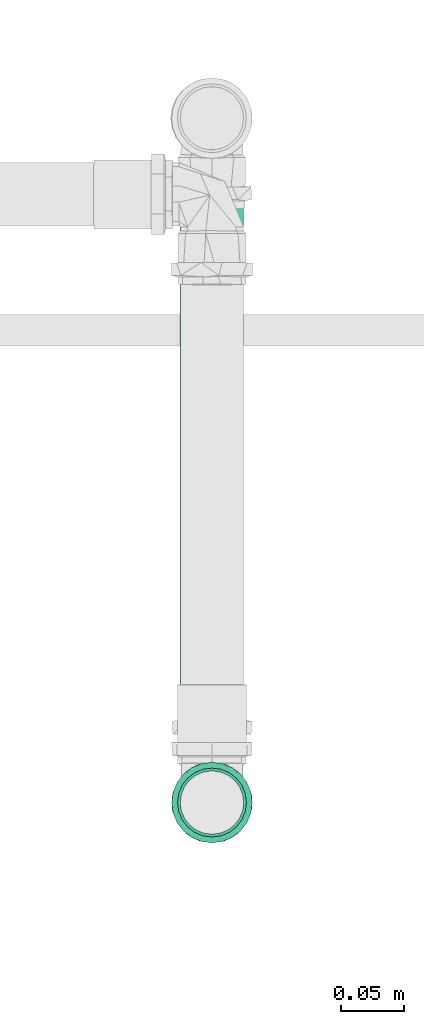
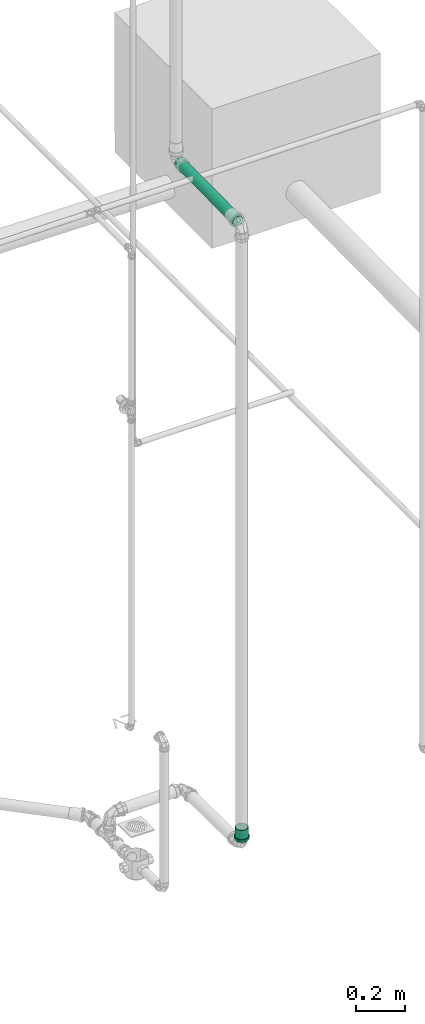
# One storey, part 227 of 589: 1 flow fitting, 1 flow segment.
"""IFC2X3 building model written with IfcOpenShell, lengths in millimetres."""

from ifc_helpers import new_model, entity, si_unit, converted_unit, derived_unit, direction, frame, origin, origin_2d_with_axis, place, context, subcontext, project, spatial, circle, extrude, faceted_brep, source, transform, mapped, material, type_object, type_shapes, element, save


model = new_model("IFC2X3")

# Units and contexts
model_context = context("Model", 3, precision=0.01, world=origin(), true_north=direction((6.123031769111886e-17, 1.0)))
body_context = subcontext(model_context, "Body", "Model", "MODEL_VIEW")
ifc_project = project(units=[si_unit("LENGTHUNIT", "METRE", prefix="MILLI"), si_unit("AREAUNIT", "SQUARE_METRE"), si_unit("VOLUMEUNIT", "CUBIC_METRE"), converted_unit("PLANEANGLEUNIT", "DEGREE", entity("IfcRatioMeasure", 0.017453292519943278), si_unit("PLANEANGLEUNIT", "RADIAN"), dimensions=[0, 0, 0, 0, 0, 0, 0]), si_unit("MASSUNIT", "GRAM", prefix="KILO"), derived_unit("MASSDENSITYUNIT", [(si_unit("MASSUNIT", "GRAM", prefix="KILO"), 1), (si_unit("LENGTHUNIT", "METRE"), -3)]), derived_unit("IONCONCENTRATIONUNIT", [(si_unit("MASSUNIT", "GRAM", prefix="KILO"), 1), (si_unit("LENGTHUNIT", "METRE"), -3)]), derived_unit("MOMENTOFINERTIAUNIT", [(si_unit("LENGTHUNIT", "METRE"), 4)]), si_unit("TIMEUNIT", "SECOND"), si_unit("FREQUENCYUNIT", "HERTZ"), si_unit("THERMODYNAMICTEMPERATUREUNIT", "DEGREE_CELSIUS"), derived_unit("THERMALTRANSMITTANCEUNIT", [(si_unit("MASSUNIT", "GRAM", prefix="KILO"), 1), (si_unit("THERMODYNAMICTEMPERATUREUNIT", "KELVIN"), -1), (si_unit("TIMEUNIT", "SECOND"), -3)]), derived_unit("THERMALCONDUCTANCEUNIT", [(si_unit("MASSUNIT", "GRAM", prefix="KILO"), 1), (si_unit("THERMODYNAMICTEMPERATUREUNIT", "KELVIN"), -1), (si_unit("TIMEUNIT", "SECOND"), -3), (si_unit("LENGTHUNIT", "METRE"), 1)]), derived_unit("VOLUMETRICFLOWRATEUNIT", [(si_unit("LENGTHUNIT", "METRE"), 3), (si_unit("TIMEUNIT", "SECOND"), -1)]), derived_unit("MASSFLOWRATEUNIT", [(si_unit("MASSUNIT", "GRAM", prefix="KILO"), 1), (si_unit("TIMEUNIT", "SECOND"), -1)]), derived_unit("ROTATIONALFREQUENCYUNIT", [(si_unit("TIMEUNIT", "SECOND"), -1)]), si_unit("ELECTRICCURRENTUNIT", "AMPERE"), si_unit("ELECTRICVOLTAGEUNIT", "VOLT"), si_unit("POWERUNIT", "WATT"), si_unit("FORCEUNIT", "NEWTON", prefix="KILO"), si_unit("ILLUMINANCEUNIT", "LUX"), si_unit("LUMINOUSFLUXUNIT", "LUMEN"), si_unit("LUMINOUSINTENSITYUNIT", "CANDELA"), derived_unit("USERDEFINED", [(si_unit("MASSUNIT", "GRAM", prefix="KILO"), -1), (si_unit("LENGTHUNIT", "METRE"), -2), (si_unit("TIMEUNIT", "SECOND"), 3), (si_unit("LUMINOUSFLUXUNIT", "LUMEN"), 1)]), derived_unit("USERDEFINED", [(si_unit("MASSUNIT", "GRAM", prefix="KILO"), 1), (si_unit("TIMEUNIT", "SECOND"), -3), (si_unit("LENGTHUNIT", "METRE"), 3), (si_unit("ELECTRICCURRENTUNIT", "AMPERE"), -2)]), derived_unit("SOUNDPOWERUNIT", [(si_unit("MASSUNIT", "GRAM", prefix="KILO"), 1), (si_unit("TIMEUNIT", "SECOND"), -3), (si_unit("LENGTHUNIT", "METRE"), 2)]), derived_unit("SOUNDPRESSUREUNIT", [(si_unit("MASSUNIT", "GRAM", prefix="KILO"), 1), (si_unit("LENGTHUNIT", "METRE"), -1), (si_unit("TIMEUNIT", "SECOND"), -2)]), derived_unit("LINEARVELOCITYUNIT", [(si_unit("LENGTHUNIT", "METRE"), 1), (si_unit("TIMEUNIT", "SECOND"), -1)]), si_unit("PRESSUREUNIT", "PASCAL"), derived_unit("USERDEFINED", [(si_unit("MASSUNIT", "GRAM", prefix="KILO"), 1), (si_unit("LENGTHUNIT", "METRE"), -2), (si_unit("TIMEUNIT", "SECOND"), -2)]), derived_unit("LINEARFORCEUNIT", [(si_unit("MASSUNIT", "GRAM", prefix="KILO"), 1), (si_unit("TIMEUNIT", "SECOND"), -2)]), derived_unit("PLANARFORCEUNIT", [(si_unit("MASSUNIT", "GRAM", prefix="KILO"), 1), (si_unit("LENGTHUNIT", "METRE"), -1), (si_unit("TIMEUNIT", "SECOND"), -2)]), derived_unit("SPECIFICHEATCAPACITYUNIT", [(si_unit("THERMODYNAMICTEMPERATUREUNIT", "KELVIN"), -1), (si_unit("LENGTHUNIT", "METRE"), 2), (si_unit("TIMEUNIT", "SECOND"), -2)]), derived_unit("HEATINGVALUEUNIT", [(si_unit("LENGTHUNIT", "METRE"), 2), (si_unit("TIMEUNIT", "SECOND"), -2)]), derived_unit("VAPORPERMEABILITYUNIT", [(si_unit("LENGTHUNIT", "METRE"), -1), (si_unit("TIMEUNIT", "SECOND"), 1)]), derived_unit("DYNAMICVISCOSITYUNIT", [(si_unit("MASSUNIT", "GRAM", prefix="KILO"), 1), (si_unit("TIMEUNIT", "SECOND"), -1), (si_unit("LENGTHUNIT", "METRE"), -1)]), derived_unit("THERMALEXPANSIONCOEFFICIENTUNIT", [(si_unit("THERMODYNAMICTEMPERATUREUNIT", "KELVIN"), -1)]), derived_unit("MODULUSOFELASTICITYUNIT", [(si_unit("MASSUNIT", "GRAM", prefix="KILO"), 1), (si_unit("LENGTHUNIT", "METRE"), -1), (si_unit("TIMEUNIT", "SECOND"), -2)]), derived_unit("ISOTHERMALMOISTURECAPACITYUNIT", [(si_unit("LENGTHUNIT", "METRE"), 3), (si_unit("MASSUNIT", "GRAM", prefix="KILO"), -1)]), derived_unit("MOISTUREDIFFUSIVITYUNIT", [(si_unit("TIMEUNIT", "SECOND"), -1), (si_unit("LENGTHUNIT", "METRE"), 2)])], contexts=[model_context])

# Site, building, storey
site_placement = place(None, origin())
site = spatial("IfcSite", under=ifc_project, at=site_placement, Name="Default", CompositionType="ELEMENT")
building_placement = place(site_placement, origin())
building = spatial("IfcBuilding", under=site, at=building_placement, CompositionType="ELEMENT")
storey_placement = place(building_placement, frame((0.0, 0.0, 100.0)))
storey = spatial("IfcBuildingStorey", under=building, at=storey_placement, Name="TÉRREO", CompositionType="ELEMENT", Elevation=100.0)

# Flow segment
pipe_segment_type = type_object("IfcPipeSegmentType", Name="Tipos de tubos:PVC Esgoto Série Normal", PredefinedType="NOTDEFINED")
flow_segment_placement = place(storey_placement, origin())
element("IfcFlowSegment", 1, at=flow_segment_placement, inside=storey, type_object=pipe_segment_type, Name="Tipos de tubos:PVC Esgoto Série Normal", ObjectType="Tipos de tubos:PVC Esgoto Série Normal", context=body_context, shape_type="SweptSolid", body=[
    extrude(circle(Radius=25.0, at=origin_2d_with_axis()), frame((13750.348087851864, -2102.619018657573, 2988.509397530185), z_axis=(0.0, 0.9999500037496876, 0.009999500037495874), x_axis=(1.0, 0.0, 0.0)), (0.0, 0.0, 1.0), 478.1443993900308),
])

# Flow fitting
ifc_material = material(Name="PVC Série Normal")
pipe_fitting_type = type_object("IfcPipeFittingType", Name="PVC Esgoto_Luva Simples para Conexão_Rodrigo MEP:Standard", PredefinedType="NOTDEFINED", material=ifc_material)
shared_shape = source(origin(), body_context, "Body", "Brep", [
    faceted_brep([(16.599999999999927, 15.900000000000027, -27.53960784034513), (16.599999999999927, 22.485995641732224, -22.485995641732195), (16.599999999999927, 13.599999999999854, -23.555890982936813), (16.599999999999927, 7.039878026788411, -26.273182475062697), (16.599999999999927, 8.2304456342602, -30.71644127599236), (16.599999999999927, 19.233304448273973, -19.233304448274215), (16.599999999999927, 27.539607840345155, -15.899999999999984), (16.599999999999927, 23.55589098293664, -13.600000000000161), (16.599999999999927, 26.273182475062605, -7.03987802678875), (16.599999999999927, 30.716441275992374, -8.230445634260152), (16.599999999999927, 27.2, 0.0), (16.599999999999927, 31.8, 0.0), (16.599999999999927, 26.273182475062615, 7.0398780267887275), (16.599999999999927, 30.71644127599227, 8.23044563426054), (16.599999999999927, 23.555890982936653, 13.60000000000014), (16.599999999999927, 27.539607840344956, 15.900000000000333), (16.599999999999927, 19.233304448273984, 19.2333044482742), (16.599999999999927, 22.485995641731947, 22.48599564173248), (16.599999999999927, 13.599999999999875, 23.555890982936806), (16.599999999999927, 15.899999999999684, 27.53960784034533), (16.599999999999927, 7.039878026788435, 26.27318247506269), (16.599999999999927, 8.230445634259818, 30.716441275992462), (16.599999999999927, 0.0, 27.2), (16.599999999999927, 0.0, 31.8), (16.599999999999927, -7.039878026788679, 26.273182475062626), (16.599999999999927, -8.230445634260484, 30.716441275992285), (16.599999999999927, -13.600000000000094, 23.555890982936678), (16.599999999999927, -15.900000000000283, 27.53960784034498), (16.599999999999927, -19.23330444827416, 19.233304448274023), (16.599999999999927, -22.485995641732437, 22.48599564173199), (16.599999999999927, -23.55589098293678, 13.59999999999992), (16.599999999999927, -27.539607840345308, 15.899999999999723), (16.599999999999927, -30.71644127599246, 8.230445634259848), (16.599999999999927, -26.273182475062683, 7.039878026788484), (16.599999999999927, -31.8, 0.0), (16.599999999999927, -27.2, 0.0), (16.599999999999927, -30.71644127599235, -8.23044563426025), (16.599999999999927, -26.273182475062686, -7.03987802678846), (16.599999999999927, -27.53960784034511, -15.90000000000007), (16.599999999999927, -23.55589098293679, -13.599999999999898), (16.599999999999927, -22.485995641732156, -22.485995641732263), (16.599999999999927, -19.233304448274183, -19.233304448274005), (16.599999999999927, -15.899999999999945, -27.53960784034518), (16.599999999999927, -13.600000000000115, -23.555890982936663), (16.599999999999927, -8.230445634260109, -30.716441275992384), (16.599999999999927, -7.039878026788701, -26.273182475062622), (16.599999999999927, 0.0, -31.8), (16.599999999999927, 0.0, -27.2), (6.500000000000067, -10.708108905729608, 29.429219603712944), (6.500000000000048, -24.359073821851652, 20.44200387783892), (6.500000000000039, -27.120498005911, 15.6595386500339), (6.50000000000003, -29.881922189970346, 10.877073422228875), (6.500000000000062, -15.89769721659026, 27.540937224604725), (6.500000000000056, -20.128385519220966, 23.991470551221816), (6.50000000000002, -30.840961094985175, 5.438536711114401), (6.5000000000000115, -31.8, 0.0), (6.50000000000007, -5.518520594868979, 31.317501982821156), (6.500000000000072, 5.526376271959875, 31.316116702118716), (6.50000000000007, 0.00392783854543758, 31.316809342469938), (6.500000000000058, 20.134403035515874, 23.986420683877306), (6.500000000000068, 10.715490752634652, 29.42653259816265), (6.500000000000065, 15.904605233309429, 27.536948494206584), (6.500000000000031, 29.8846497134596, 10.869577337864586), (6.500000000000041, 27.12442527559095, 15.652735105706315), (6.5000000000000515, 24.364200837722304, 20.435892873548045), (6.5000000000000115, 31.8, 0.0), (6.499999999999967, 24.364200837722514, -20.435892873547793), (6.499999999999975, 27.12442527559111, -15.652735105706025), (6.499999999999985, 29.884649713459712, -10.869577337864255), (6.4999999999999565, 15.904605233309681, -27.53694849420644), (6.499999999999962, 20.134403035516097, -23.986420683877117), (6.499999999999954, 10.715490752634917, -29.42653259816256), (6.499999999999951, 5.526376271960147, -31.31611670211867), (6.499999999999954, -5.518520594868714, -31.317501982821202), (6.499999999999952, 0.003927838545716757, -31.316809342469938), (6.499999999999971, -20.128385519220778, -23.99147055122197), (6.499999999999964, -15.897697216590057, -27.54093722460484), (6.499999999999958, -10.70810890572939, -29.42921960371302), (6.499999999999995, -29.881922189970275, -10.877073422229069), (6.499999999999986, -27.12049800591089, -15.659538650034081), (6.499999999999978, -24.359073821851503, -20.442003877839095), (6.500000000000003, -30.840961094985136, -5.438536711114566), (6.499999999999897, -30.696173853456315, -6.259599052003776), (62.0, 13.600000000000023, -23.55589098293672), (62.0, 19.233304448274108, -19.23330444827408), (62.0, 12.499999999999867, -21.650635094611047), (62.0, 6.470476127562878, -24.14814565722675), (62.0, 7.039878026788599, -26.273182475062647), (62.0, 17.677669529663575, -17.677669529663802), (62.0, 23.55589098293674, -13.599999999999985), (62.0, 21.65063509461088, -12.50000000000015), (62.0, 24.148145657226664, -6.470476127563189), (62.0, 26.27318247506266, -7.039878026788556), (62.0, 25.0, 0.0), (62.0, 27.2, 0.0), (62.0, 24.148145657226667, 6.4704761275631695), (62.0, 26.273182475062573, 7.03987802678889), (62.0, 21.650635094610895, 12.500000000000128), (62.0, 23.555890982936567, 13.600000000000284), (62.0, 17.67766952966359, 17.67766952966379), (62.0, 19.233304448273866, 19.233304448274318), (62.0, 12.499999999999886, 21.650635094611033), (62.0, 13.59999999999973, 23.55589098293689), (62.0, 6.4704761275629, 24.14814565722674), (62.0, 7.039878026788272, 26.273182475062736), (62.0, 0.0, 25.0), (62.0, 0.0, 27.2), (62.0, -6.470476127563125, 24.148145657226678), (62.0, -7.039878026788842, 26.273182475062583), (62.0, -12.500000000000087, 21.650635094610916), (62.0, -13.600000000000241, 23.555890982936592), (62.0, -17.677669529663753, 17.677669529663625), (62.0, -19.233304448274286, 19.2333044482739), (62.0, -21.65063509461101, 12.499999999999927), (62.0, -23.555890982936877, 13.599999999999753), (62.0, -26.27318247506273, 7.039878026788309), (62.0, -24.14814565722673, 6.470476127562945), (62.0, -27.2, 0.0), (62.0, -25.0, 0.0), (62.0, -26.27318247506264, -7.0398780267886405), (62.0, -24.148145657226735, -6.470476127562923), (62.0, -23.5558909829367, -13.600000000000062), (62.0, -21.650635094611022, -12.499999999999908), (62.0, -19.233304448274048, -19.233304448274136), (62.0, -17.67766952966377, -17.677669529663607), (62.0, -13.599999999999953, -23.555890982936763), (62.0, -12.500000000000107, -21.650635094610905), (62.0, -7.039878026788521, -26.27318247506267), (62.0, -6.470476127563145, -24.148145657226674), (62.0, 0.0, -27.2), (62.0, 0.0, -25.0), (0.0, 12.499999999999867, -21.650635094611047), (0.0, 19.233304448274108, -19.23330444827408), (0.0, 13.600000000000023, -23.55589098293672), (0.0, 6.470476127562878, -24.14814565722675), (0.0, 17.677669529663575, -17.677669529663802), (0.0, 23.55589098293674, -13.599999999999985), (0.0, 21.65063509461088, -12.50000000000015), (0.0, 24.148145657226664, -6.470476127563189), (0.0, 26.27318247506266, -7.039878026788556), (0.0, 25.0, 0.0), (0.0, 27.2, 0.0), (0.0, 24.148145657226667, 6.4704761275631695), (0.0, 26.273182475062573, 7.03987802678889), (0.0, 21.650635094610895, 12.500000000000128), (0.0, 23.555890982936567, 13.600000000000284), (0.0, 17.67766952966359, 17.67766952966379), (0.0, 19.233304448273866, 19.233304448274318), (0.0, 12.499999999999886, 21.650635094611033), (0.0, 13.59999999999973, 23.55589098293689), (0.0, 6.4704761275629, 24.14814565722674), (0.0, 7.039878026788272, 26.273182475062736), (0.0, 0.0, 25.0), (0.0, 0.0, 27.2), (0.0, -6.470476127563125, 24.148145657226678), (0.0, -7.039878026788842, 26.273182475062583), (0.0, -12.500000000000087, 21.650635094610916), (0.0, -13.600000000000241, 23.555890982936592), (0.0, -17.677669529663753, 17.677669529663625), (0.0, -19.233304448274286, 19.2333044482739), (0.0, -21.65063509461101, 12.499999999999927), (0.0, -23.555890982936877, 13.599999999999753), (0.0, -26.27318247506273, 7.039878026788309), (0.0, -24.14814565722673, 6.470476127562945), (0.0, -27.2, 0.0), (0.0, -25.0, 0.0), (0.0, -26.27318247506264, -7.0398780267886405), (0.0, -24.148145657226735, -6.470476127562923), (0.0, -23.5558909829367, -13.600000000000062), (0.0, -21.650635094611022, -12.499999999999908), (0.0, -19.233304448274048, -19.233304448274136), (0.0, -17.67766952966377, -17.677669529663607), (0.0, -13.599999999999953, -23.555890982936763), (0.0, -12.500000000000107, -21.650635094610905), (0.0, -7.039878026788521, -26.27318247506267), (0.0, -6.470476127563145, -24.148145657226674), (0.0, 0.0, -27.2), (0.0, 0.0, -25.0), (0.0, 7.039878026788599, -26.273182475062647), (5.300000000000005, -26.37968999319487, 4.651830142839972), (5.299999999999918, -26.25584678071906, 5.354122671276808), (5.300000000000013, -25.559379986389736, 9.303660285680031), (5.300000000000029, -20.835434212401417, 17.48498444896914), (5.300000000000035, -17.216732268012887, 20.521006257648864), (5.300000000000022, -23.19740709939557, 13.394322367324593), (5.3000000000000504, -4.720244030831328, 26.787297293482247), (5.300000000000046, -9.15913717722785, 25.172162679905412), (5.299999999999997, -27.2, 0.0), (5.300000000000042, -13.598030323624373, 23.557028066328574), (5.300000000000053, 9.165451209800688, 25.169864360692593), (5.300000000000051, 13.603939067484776, 23.55361632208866), (5.300000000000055, 4.7269633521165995, 26.786112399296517), (5.300000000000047, 17.221879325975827, 20.516686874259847), (5.300000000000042, 20.839819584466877, 17.479757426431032), (5.3000000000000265, 25.56171296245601, 9.297248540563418), (5.299999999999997, 27.2, 0.0), (5.3000000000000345, 23.20076627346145, 13.388502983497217), (5.300000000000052, 0.003359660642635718, 26.786704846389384), (5.299999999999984, 25.56171296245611, -9.29724854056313), (5.299999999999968, 20.839819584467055, -17.47975742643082), (5.2999999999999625, 17.22187932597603, -20.516686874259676), (5.299999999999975, 23.200766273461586, -13.388502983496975), (5.299999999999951, 4.726963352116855, -26.78611239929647), (5.2999999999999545, 9.165451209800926, -25.169864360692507), (5.299999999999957, 13.603939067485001, -23.553616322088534), (5.29999999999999, -26.379689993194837, -4.651830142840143), (5.299999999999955, -9.159137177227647, -25.17216267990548), (5.299999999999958, -13.5980303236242, -23.55702806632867), (5.299999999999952, -4.720244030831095, -26.787297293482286), (5.299999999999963, -17.216732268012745, -20.52100625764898), (5.299999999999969, -20.83543421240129, -17.484984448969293), (5.299999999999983, -25.559379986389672, -9.303660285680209), (5.299999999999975, -23.197407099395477, -13.394322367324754), (5.299999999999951, 0.003359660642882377, -26.78670484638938), (39.0, -25.0, 0.0), (39.0, 25.0, 0.0)], [[[0, 1, 2]], [[0, 2, 3]], [[3, 4, 0]], [[2, 1, 5]], [[6, 5, 1]], [[7, 5, 6]], [[8, 7, 6]], [[8, 6, 9]], [[8, 9, 10]], [[10, 9, 11]], [[12, 10, 11]], [[12, 11, 13]], [[14, 12, 13]], [[14, 13, 15]], [[16, 14, 15]], [[15, 17, 16]], [[17, 18, 16]], [[17, 19, 18]], [[18, 19, 20]], [[21, 20, 19]], [[20, 21, 22]], [[22, 21, 23]], [[22, 23, 24]], [[24, 23, 25]], [[24, 25, 26]], [[27, 26, 25]], [[27, 28, 26]], [[28, 27, 29]], [[30, 28, 29]], [[31, 30, 29]], [[32, 30, 31]], [[33, 30, 32]], [[33, 32, 34]], [[35, 33, 34]], [[36, 35, 34]], [[36, 37, 35]], [[37, 36, 38]], [[39, 37, 38]], [[39, 38, 40]], [[39, 40, 41]], [[40, 42, 41]], [[41, 42, 43]], [[43, 42, 44]], [[44, 45, 43]], [[46, 45, 44]], [[4, 47, 46]], [[46, 47, 45]], [[4, 3, 47]], [[48, 27, 25]], [[31, 29, 49]], [[31, 49, 50, 51]], [[52, 53, 27]], [[32, 51, 54]], [[54, 55, 34]], [[54, 34, 32]], [[25, 56, 48]], [[49, 29, 53]], [[23, 57, 58, 56]], [[59, 19, 17]], [[27, 53, 29]], [[48, 52, 27]], [[31, 51, 32]], [[57, 23, 21]], [[60, 19, 61]], [[15, 62, 63, 64]], [[19, 60, 21]], [[15, 13, 62]], [[17, 64, 59]], [[57, 21, 60]], [[23, 56, 25]], [[15, 64, 17]], [[13, 65, 62]], [[13, 11, 65]], [[59, 61, 19]], [[65, 11, 9]], [[6, 1, 66]], [[6, 66, 67, 68]], [[69, 70, 0]], [[68, 65, 9]], [[71, 69, 0]], [[71, 0, 4]], [[4, 72, 71]], [[66, 1, 70]], [[46, 73, 74, 72]], [[75, 76, 42]], [[0, 70, 1]], [[75, 42, 40]], [[6, 68, 9]], [[73, 46, 44]], [[77, 42, 76]], [[38, 78, 79, 80]], [[42, 77, 44]], [[38, 36, 78]], [[40, 80, 75]], [[73, 44, 77]], [[46, 72, 4]], [[38, 80, 40]], [[36, 81, 82, 78]], [[55, 81, 34]], [[34, 81, 36]], [[83, 84, 85]], [[83, 85, 86]], [[86, 87, 83]], [[85, 84, 88]], [[89, 88, 84]], [[88, 89, 90]], [[90, 89, 91]], [[92, 91, 89]], [[92, 93, 91]], [[93, 92, 94]], [[95, 93, 94]], [[94, 96, 95]], [[95, 96, 97]], [[98, 97, 96]], [[97, 98, 99]], [[99, 98, 100]], [[101, 99, 100]], [[100, 102, 101]], [[101, 102, 103]], [[104, 103, 102]], [[103, 104, 105]], [[105, 104, 106]], [[105, 106, 107]], [[107, 106, 108]], [[107, 108, 109]], [[110, 109, 108]], [[110, 111, 109]], [[111, 110, 112]], [[112, 113, 111]], [[114, 113, 112]], [[113, 114, 115]], [[115, 116, 113]], [[117, 116, 115]], [[117, 118, 116]], [[119, 118, 117]], [[119, 120, 118]], [[120, 119, 121]], [[121, 122, 120]], [[122, 121, 123]], [[122, 123, 124]], [[123, 125, 124]], [[124, 125, 126]], [[126, 125, 127]], [[127, 128, 126]], [[129, 128, 127]], [[87, 130, 129]], [[129, 130, 128]], [[87, 86, 130]], [[131, 132, 133]], [[134, 131, 133]], [[135, 132, 131]], [[132, 135, 136]], [[137, 136, 135]], [[138, 136, 137]], [[136, 138, 139]], [[138, 140, 139]], [[141, 139, 140]], [[141, 140, 142]], [[142, 143, 141]], [[144, 143, 142]], [[143, 144, 145]], [[146, 145, 144]], [[147, 145, 146]], [[147, 146, 148]], [[148, 149, 147]], [[150, 149, 148]], [[149, 150, 151]], [[152, 151, 150]], [[153, 151, 152]], [[154, 153, 152]], [[155, 153, 154]], [[156, 155, 154]], [[155, 156, 157]], [[156, 158, 157]], [[159, 157, 158]], [[158, 160, 159]], [[159, 160, 161]], [[162, 161, 160]], [[160, 163, 162]], [[162, 163, 164]], [[163, 165, 164]], [[164, 165, 166]], [[165, 167, 166]], [[168, 166, 167]], [[167, 169, 168]], [[170, 168, 169]], [[171, 170, 169]], [[171, 172, 170]], [[173, 172, 171]], [[174, 172, 173]], [[173, 175, 174]], [[174, 175, 176]], [[175, 177, 176]], [[177, 134, 178]], [[176, 177, 178]], [[133, 178, 134]], [[162, 179, 180, 181]], [[159, 182, 183]], [[182, 161, 181, 184]], [[185, 155, 186]], [[161, 162, 181]], [[187, 179, 164]], [[183, 188, 157]], [[183, 157, 159]], [[161, 182, 159]], [[189, 190, 149]], [[189, 149, 151]], [[157, 188, 186]], [[157, 186, 155]], [[153, 155, 185]], [[164, 179, 162]], [[151, 191, 189]], [[147, 192, 193]], [[143, 194, 195]], [[194, 145, 193, 196]], [[143, 195, 141]], [[10, 12, 96, 94]], [[149, 192, 147]], [[153, 185, 197, 191]], [[153, 191, 151]], [[145, 147, 193]], [[190, 192, 149]], [[145, 194, 143]], [[139, 195, 198]], [[132, 199, 200]], [[199, 136, 198, 201]], [[202, 178, 203]], [[136, 139, 198]], [[139, 141, 195]], [[92, 8, 10, 94]], [[133, 203, 178]], [[200, 204, 133]], [[136, 199, 132]], [[205, 164, 166]], [[206, 207, 172]], [[133, 204, 203]], [[206, 172, 174]], [[176, 178, 202]], [[200, 133, 132]], [[174, 208, 206]], [[170, 209, 210]], [[166, 211, 205]], [[211, 168, 210, 212]], [[168, 211, 166]], [[172, 209, 170]], [[176, 202, 213, 208]], [[176, 208, 174]], [[168, 170, 210]], [[207, 209, 172]], [[205, 187, 164]], [[116, 118, 214, 165, 163]], [[156, 109, 111, 158]], [[111, 113, 160, 158]], [[113, 116, 163, 160]], [[107, 109, 156, 154]], [[154, 152, 105, 107]], [[103, 105, 152, 150]], [[103, 150, 148, 101]], [[142, 95, 97, 144]], [[97, 99, 146, 144]], [[99, 101, 148, 146]], [[93, 95, 142, 140, 215]], [[215, 140, 138, 91, 93]], [[135, 131, 85, 88]], [[90, 91, 138, 137]], [[90, 137, 135, 88]], [[86, 85, 131, 134]], [[134, 177, 130, 86]], [[128, 130, 177, 175]], [[128, 175, 173, 126]], [[167, 120, 122, 169]], [[122, 124, 171, 169]], [[124, 126, 173, 171]], [[118, 120, 167, 165, 214]], [[211, 78, 82, 81, 55, 187, 205]], [[79, 78, 211, 212, 210, 80]], [[75, 80, 210, 209, 207, 76]], [[207, 206, 208, 73, 77, 76]], [[213, 202, 72, 74, 73, 208]], [[203, 204, 69, 71, 72, 202]], [[198, 195, 65, 68]], [[199, 201, 198, 68, 67, 66]], [[204, 200, 199, 66, 70, 69]], [[195, 194, 62, 65]], [[197, 185, 56, 58, 57, 191]], [[63, 62, 194, 196, 193, 64]], [[57, 60, 61, 190, 189, 191]], [[193, 192, 190, 61, 59, 64]], [[48, 56, 185, 186, 188, 52]], [[187, 55, 54, 51, 181, 180, 179]], [[182, 184, 181, 51, 50, 49]], [[188, 183, 182, 49, 53, 52]], [[30, 33, 115, 114]], [[117, 115, 33, 35]], [[26, 28, 112, 110]], [[114, 112, 28, 30]], [[24, 26, 110, 108]], [[108, 106, 22, 24]], [[18, 20, 104, 102]], [[100, 16, 18, 102]], [[12, 14, 98, 96]], [[100, 98, 14, 16]], [[104, 20, 22, 106]], [[89, 7, 8, 92]], [[83, 87, 3, 2]], [[7, 89, 84, 5]], [[83, 2, 5, 84]], [[87, 129, 47, 3]], [[43, 45, 127, 125]], [[123, 41, 43, 125]], [[37, 39, 121, 119]], [[123, 121, 39, 41]], [[35, 37, 119, 117]], [[127, 45, 47, 129]]]),
])
type_shapes(pipe_fitting_type, [shared_shape])
flow_fitting_placement = place(storey_placement, frame((13750.430163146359, -2133.5587716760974, -90.84455273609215), z_axis=(-1.0, 0.0, 0.0), x_axis=(0.0, 0.0, 1.0)))
element("IfcFlowFitting", 2, at=flow_fitting_placement, inside=storey, type_object=pipe_fitting_type, material=ifc_material, Name="PVC Esgoto_Luva Simples para Conexão_Rodrigo MEP:Standard", ObjectType="PVC Esgoto_Luva Simples para Conexão_Rodrigo MEP:Standard", context=body_context, shape_type="MappedRepresentation", body=[
    mapped(shared_shape, transform((0.0, 0.0, 0.0), scale=1.0)),
])

save(model, "model.ifc")
